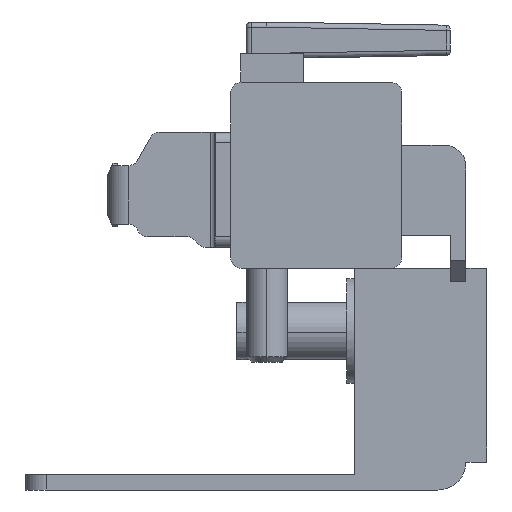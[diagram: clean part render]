
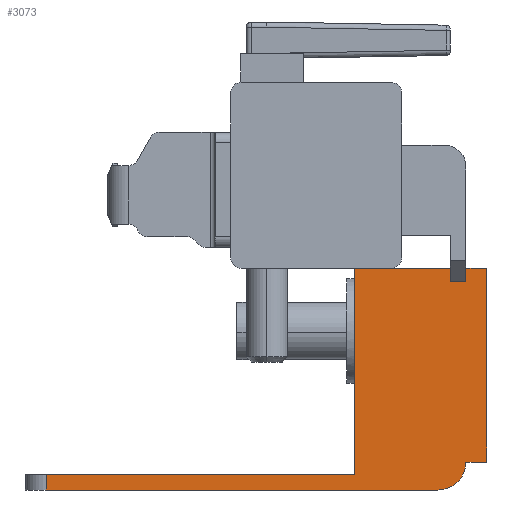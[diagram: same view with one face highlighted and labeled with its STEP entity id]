
A CAD part, left-side view. The second image highlights one B-rep face of the part: STEP entity #3073.
In plain terms, the highlighted planar face has unit normal (-1, 0, 0).
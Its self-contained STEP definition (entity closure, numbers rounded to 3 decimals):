
#38 = EDGE_CURVE ( 'NONE', #4862, #890, #1501, .T. ) ;
#54 = VERTEX_POINT ( 'NONE', #1302 ) ;
#65 = DIRECTION ( 'NONE',  ( 0., 1., 0. ) ) ;
#99 = DIRECTION ( 'NONE',  ( 1., 0., 0. ) ) ;
#157 = DIRECTION ( 'NONE',  ( 0., -1., 0. ) ) ;
#380 = ORIENTED_EDGE ( 'NONE', *, *, #38, .T. ) ;
#398 = VECTOR ( 'NONE', #1160, 1000. ) ;
#404 = EDGE_LOOP ( 'NONE', ( #1138, #516, #4269, #2224, #1259, #380, #868, #1123, #637, #680, #3457, #1553, #2331 ) ) ;
#516 = ORIENTED_EDGE ( 'NONE', *, *, #593, .T. ) ;
#589 = CARTESIAN_POINT ( 'NONE',  ( -203.1, -28.333, 40.749 ) ) ;
#593 = EDGE_CURVE ( 'NONE', #2117, #3079, #3447, .T. ) ;
#619 = LINE ( 'NONE', #4640, #1606 ) ;
#622 = VERTEX_POINT ( 'NONE', #3355 ) ;
#637 = ORIENTED_EDGE ( 'NONE', *, *, #1176, .F. ) ;
#680 = ORIENTED_EDGE ( 'NONE', *, *, #3465, .F. ) ;
#806 = LINE ( 'NONE', #3712, #2900 ) ;
#868 = ORIENTED_EDGE ( 'NONE', *, *, #1650, .F. ) ;
#890 = VERTEX_POINT ( 'NONE', #914 ) ;
#914 = CARTESIAN_POINT ( 'NONE',  ( -203.1, 11.767, 21.019 ) ) ;
#924 = VERTEX_POINT ( 'NONE', #3027 ) ;
#969 = AXIS2_PLACEMENT_3D ( 'NONE', #5206, #4368, #3555 ) ;
#1025 = VECTOR ( 'NONE', #2680, 1000. ) ;
#1063 = LINE ( 'NONE', #2989, #4382 ) ;
#1123 = ORIENTED_EDGE ( 'NONE', *, *, #2387, .T. ) ;
#1138 = ORIENTED_EDGE ( 'NONE', *, *, #5211, .T. ) ;
#1155 = CARTESIAN_POINT ( 'NONE',  ( -203.1, -26.863, 39.459 ) ) ;
#1160 = DIRECTION ( 'NONE',  ( 0., 1., 0. ) ) ;
#1176 = EDGE_CURVE ( 'NONE', #3200, #5228, #4970, .T. ) ;
#1185 = DIRECTION ( 'NONE',  ( 0., 0., 1. ) ) ;
#1199 = LINE ( 'NONE', #4706, #2308 ) ;
#1259 = ORIENTED_EDGE ( 'NONE', *, *, #2361, .T. ) ;
#1302 = CARTESIAN_POINT ( 'NONE',  ( -203.1, -17.713, 40.749 ) ) ;
#1455 = EDGE_CURVE ( 'NONE', #5039, #4681, #619, .T. ) ;
#1457 = LINE ( 'NONE', #5100, #3685 ) ;
#1496 = VECTOR ( 'NONE', #3609, 1000. ) ;
#1501 = LINE ( 'NONE', #4117, #398 ) ;
#1553 = ORIENTED_EDGE ( 'NONE', *, *, #5084, .T. ) ;
#1606 = VECTOR ( 'NONE', #4905, 1000. ) ;
#1632 = DIRECTION ( 'NONE',  ( 0., 0., 1. ) ) ;
#1650 = EDGE_CURVE ( 'NONE', #2621, #890, #4148, .T. ) ;
#1812 = LINE ( 'NONE', #2716, #2931 ) ;
#2038 = EDGE_CURVE ( 'NONE', #924, #3079, #2314, .T. ) ;
#2117 = VERTEX_POINT ( 'NONE', #1155 ) ;
#2143 = LINE ( 'NONE', #4334, #1025 ) ;
#2224 = ORIENTED_EDGE ( 'NONE', *, *, #3044, .F. ) ;
#2229 = CARTESIAN_POINT ( 'NONE',  ( -203.1, 11.767, 21.319 ) ) ;
#2308 = VECTOR ( 'NONE', #157, 1000. ) ;
#2314 = LINE ( 'NONE', #3173, #3295 ) ;
#2331 = ORIENTED_EDGE ( 'NONE', *, *, #1455, .T. ) ;
#2349 = DIRECTION ( 'NONE',  ( 0., -1., 0. ) ) ;
#2361 = EDGE_CURVE ( 'NONE', #54, #4862, #1457, .T. ) ;
#2387 = EDGE_CURVE ( 'NONE', #2621, #5228, #1199, .T. ) ;
#2521 = VERTEX_POINT ( 'NONE', #3578 ) ;
#2600 = PLANE ( 'NONE',  #5116 ) ;
#2621 = VERTEX_POINT ( 'NONE', #4731 ) ;
#2637 = DIRECTION ( 'NONE',  ( 0., 0., -1. ) ) ;
#2680 = DIRECTION ( 'NONE',  ( 0., 1., 0. ) ) ;
#2716 = CARTESIAN_POINT ( 'NONE',  ( -203.1, -30.333, 40.749 ) ) ;
#2877 = EDGE_CURVE ( 'NONE', #2521, #622, #806, .T. ) ;
#2900 = VECTOR ( 'NONE', #1632, 1000. ) ;
#2931 = VECTOR ( 'NONE', #3141, 1000. ) ;
#2960 = FACE_OUTER_BOUND ( 'NONE', #404, .T. ) ;
#2989 = CARTESIAN_POINT ( 'NONE',  ( -203.1, -30.333, 22.219 ) ) ;
#3002 = CARTESIAN_POINT ( 'NONE',  ( -203.1, -26.863, 40.749 ) ) ;
#3017 = DIRECTION ( 'NONE',  ( 0., 1., 0. ) ) ;
#3027 = CARTESIAN_POINT ( 'NONE',  ( -203.1, -21.203, 40.749 ) ) ;
#3044 = EDGE_CURVE ( 'NONE', #54, #924, #4196, .T. ) ;
#3073 = ADVANCED_FACE ( 'NONE', ( #2960 ), #2600, .F. ) ;
#3079 = VERTEX_POINT ( 'NONE', #3002 ) ;
#3141 = DIRECTION ( 'NONE',  ( 0., 1., 0. ) ) ;
#3144 = CARTESIAN_POINT ( 'NONE',  ( -203.1, -25.663, 19.549 ) ) ;
#3162 = VECTOR ( 'NONE', #1185, 1000. ) ;
#3173 = CARTESIAN_POINT ( 'NONE',  ( -203.1, -17.713, 40.749 ) ) ;
#3200 = VERTEX_POINT ( 'NONE', #3532 ) ;
#3295 = VECTOR ( 'NONE', #2349, 1000. ) ;
#3355 = CARTESIAN_POINT ( 'NONE',  ( -203.1, -30.333, 40.749 ) ) ;
#3404 = CARTESIAN_POINT ( 'NONE',  ( -203.1, -17.713, 40.749 ) ) ;
#3447 = LINE ( 'NONE', #3635, #1496 ) ;
#3457 = ORIENTED_EDGE ( 'NONE', *, *, #2877, .T. ) ;
#3465 = EDGE_CURVE ( 'NONE', #2521, #3200, #1063, .T. ) ;
#3532 = CARTESIAN_POINT ( 'NONE',  ( -203.1, -28.333, 22.219 ) ) ;
#3555 = DIRECTION ( 'NONE',  ( 0., 0., 1. ) ) ;
#3578 = CARTESIAN_POINT ( 'NONE',  ( -203.1, -30.333, 22.219 ) ) ;
#3609 = DIRECTION ( 'NONE',  ( 0., 0., 1. ) ) ;
#3635 = CARTESIAN_POINT ( 'NONE',  ( -203.1, -26.863, 40.749 ) ) ;
#3685 = VECTOR ( 'NONE', #2637, 1000. ) ;
#3712 = CARTESIAN_POINT ( 'NONE',  ( -203.1, -30.333, 22.219 ) ) ;
#4117 = CARTESIAN_POINT ( 'NONE',  ( -203.1, -29.063, 21.019 ) ) ;
#4148 = LINE ( 'NONE', #2229, #3162 ) ;
#4196 = LINE ( 'NONE', #3404, #5133 ) ;
#4238 = DIRECTION ( 'NONE',  ( 0., -1., 0. ) ) ;
#4269 = ORIENTED_EDGE ( 'NONE', *, *, #2038, .F. ) ;
#4334 = CARTESIAN_POINT ( 'NONE',  ( -203.1, -26.863, 39.459 ) ) ;
#4368 = DIRECTION ( 'NONE',  ( 1., 0., 0. ) ) ;
#4382 = VECTOR ( 'NONE', #65, 1000. ) ;
#4536 = CARTESIAN_POINT ( 'NONE',  ( -203.1, -28.333, 39.459 ) ) ;
#4640 = CARTESIAN_POINT ( 'NONE',  ( -203.1, -28.333, 40.749 ) ) ;
#4658 = CARTESIAN_POINT ( 'NONE',  ( -203.1, -29.063, 23.319 ) ) ;
#4681 = VERTEX_POINT ( 'NONE', #4536 ) ;
#4706 = CARTESIAN_POINT ( 'NONE',  ( -203.1, 14.667, 19.549 ) ) ;
#4731 = CARTESIAN_POINT ( 'NONE',  ( -203.1, 11.767, 19.549 ) ) ;
#4862 = VERTEX_POINT ( 'NONE', #5056 ) ;
#4905 = DIRECTION ( 'NONE',  ( 0., 0., -1. ) ) ;
#4970 = CIRCLE ( 'NONE', #969, 2.67 ) ;
#5039 = VERTEX_POINT ( 'NONE', #589 ) ;
#5056 = CARTESIAN_POINT ( 'NONE',  ( -203.1, -17.713, 21.019 ) ) ;
#5084 = EDGE_CURVE ( 'NONE', #622, #5039, #1812, .T. ) ;
#5100 = CARTESIAN_POINT ( 'NONE',  ( -203.1, -17.713, 40.749 ) ) ;
#5116 = AXIS2_PLACEMENT_3D ( 'NONE', #4658, #99, #3017 ) ;
#5133 = VECTOR ( 'NONE', #4238, 1000. ) ;
#5206 = CARTESIAN_POINT ( 'NONE',  ( -203.1, -25.663, 22.219 ) ) ;
#5211 = EDGE_CURVE ( 'NONE', #4681, #2117, #2143, .T. ) ;
#5228 = VERTEX_POINT ( 'NONE', #3144 ) ;
